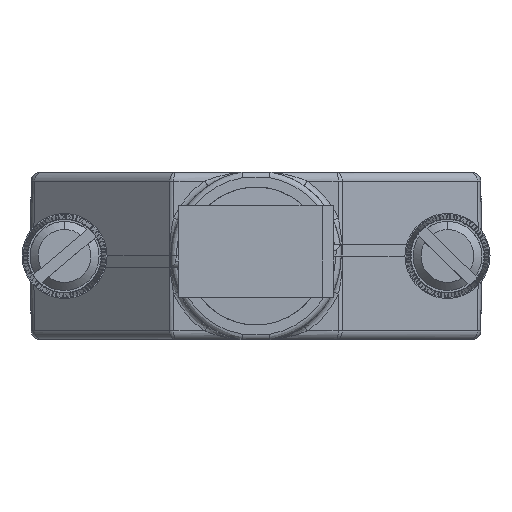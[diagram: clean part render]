
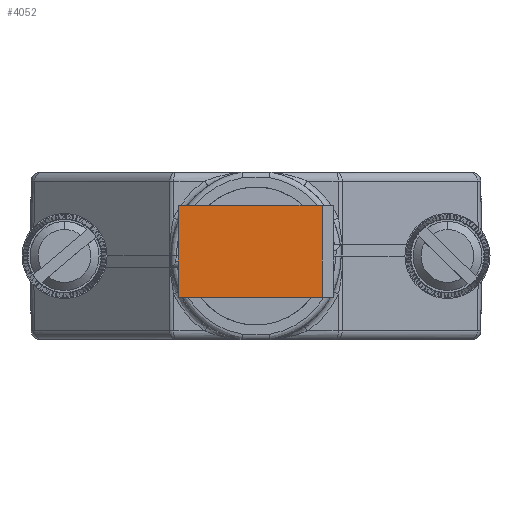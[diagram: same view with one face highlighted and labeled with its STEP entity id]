
A CAD part, left-side view. The second image highlights one B-rep face of the part: STEP entity #4052.
In plain terms, the highlighted planar face has unit normal (-1, 0, 0).
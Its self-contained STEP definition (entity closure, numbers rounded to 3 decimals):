
#2469 = VERTEX_POINT ( 'NONE', #30078 ) ;
#3845 = VERTEX_POINT ( 'NONE', #62347 ) ;
#4052 = ADVANCED_FACE ( 'NONE', ( #66488 ), #57464, .F. ) ;
#5140 = ORIENTED_EDGE ( 'NONE', *, *, #5776, .F. ) ;
#5357 = ORIENTED_EDGE ( 'NONE', *, *, #53371, .F. ) ;
#5776 = EDGE_CURVE ( 'NONE', #3845, #2469, #114518, .T. ) ;
#14901 = CARTESIAN_POINT ( 'NONE',  ( 0., 0., 0. ) ) ;
#20365 = VECTOR ( 'NONE', #87049, 1000. ) ;
#23667 = DIRECTION ( 'NONE',  ( 0., 0., -1. ) ) ;
#29851 = VECTOR ( 'NONE', #116481, 1000. ) ;
#30078 = CARTESIAN_POINT ( 'NONE',  ( 0., 0., -12.5 ) ) ;
#35338 = LINE ( 'NONE', #43196, #43644 ) ;
#37259 = VERTEX_POINT ( 'NONE', #87618 ) ;
#40592 = CARTESIAN_POINT ( 'NONE',  ( 0., 0.5, 0. ) ) ;
#43196 = CARTESIAN_POINT ( 'NONE',  ( 0., 0.5, -12.5 ) ) ;
#43644 = VECTOR ( 'NONE', #79990, 1000. ) ;
#49316 = ORIENTED_EDGE ( 'NONE', *, *, #111982, .F. ) ;
#52503 = ORIENTED_EDGE ( 'NONE', *, *, #54853, .F. ) ;
#53371 = EDGE_CURVE ( 'NONE', #37259, #3845, #115896, .T. ) ;
#54853 = EDGE_CURVE ( 'NONE', #78349, #37259, #56876, .T. ) ;
#56876 = LINE ( 'NONE', #104041, #20365 ) ;
#57340 = VECTOR ( 'NONE', #87907, 1000. ) ;
#57464 = PLANE ( 'NONE',  #59007 ) ;
#59007 = AXIS2_PLACEMENT_3D ( 'NONE', #40592, #59280, #23667 ) ;
#59280 = DIRECTION ( 'NONE',  ( 1., 0., 0. ) ) ;
#59758 = CARTESIAN_POINT ( 'NONE',  ( 0., 0.5, 0. ) ) ;
#61408 = EDGE_LOOP ( 'NONE', ( #49316, #5140, #5357, #52503 ) ) ;
#62347 = CARTESIAN_POINT ( 'NONE',  ( 0., 0., 0. ) ) ;
#66488 = FACE_OUTER_BOUND ( 'NONE', #61408, .T. ) ;
#74675 = CARTESIAN_POINT ( 'NONE',  ( 0., 8., -12.5 ) ) ;
#78349 = VERTEX_POINT ( 'NONE', #74675 ) ;
#79990 = DIRECTION ( 'NONE',  ( 0., 1., 0. ) ) ;
#87049 = DIRECTION ( 'NONE',  ( 0., 0., 1. ) ) ;
#87618 = CARTESIAN_POINT ( 'NONE',  ( 0., 8., 0. ) ) ;
#87907 = DIRECTION ( 'NONE',  ( 0., 0., -1. ) ) ;
#104041 = CARTESIAN_POINT ( 'NONE',  ( 0., 8., 0. ) ) ;
#111982 = EDGE_CURVE ( 'NONE', #2469, #78349, #35338, .T. ) ;
#114518 = LINE ( 'NONE', #14901, #57340 ) ;
#115896 = LINE ( 'NONE', #59758, #29851 ) ;
#116481 = DIRECTION ( 'NONE',  ( 0., -1., 0. ) ) ;
